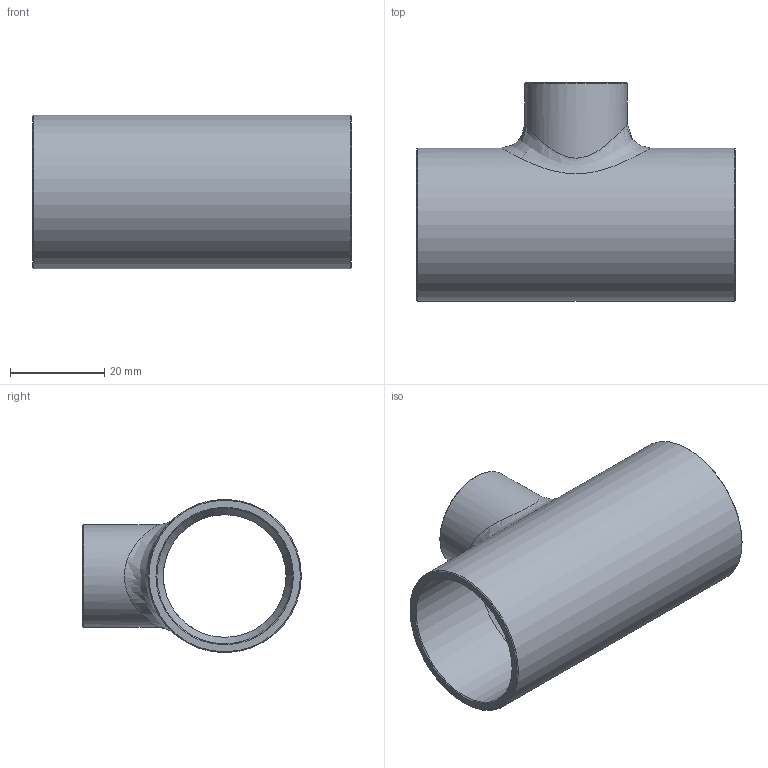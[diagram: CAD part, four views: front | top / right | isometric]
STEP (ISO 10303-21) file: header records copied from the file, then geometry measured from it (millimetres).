
FILE_DESCRIPTION((''),'2;1');
FILE_NAME('G:\SANHA-Ternat\Technik\Management\Bouwmaten + markeringen\z-maattekeningen 3D\29000s\2913011834118_3d.stp','2017-08-01T11:37:33',('vdvijverd'),(''),'Autodesk Inventor 2009','Autodesk Inventor 2009','');
FILE_SCHEMA(('AUTOMOTIVE_DESIGN { 1 0 10303 214 1 1 1 1 }'));
Length unit declared in the file: millimetre
Products named in the file (1): 2913011834118_3d
Bounding box: 67.4 x 46.35 x 32.5 mm (x, y, z)
Volume: 16054.9 mm3; surface area: 14644.5 mm2
Topology: 1 solids, 1 shells, 22 faces, 54 edges, 33 vertices
Faces by surface type: cone 8, cylinder 7, bspline 4, plane 3
Full cylindrical faces by diameter (mm): 19.17 x1, 21.8 x1, 28.725 x1, 32.5 x1
Entity records: 2028 total; most frequent: CARTESIAN_POINT 1597, DIRECTION 80, ORIENTED_EDGE 66, AXIS2_PLACEMENT_3D 40, EDGE_LOOP 40, EDGE_CURVE 33, VERTEX_POINT 27, FACE_OUTER_BOUND 22
